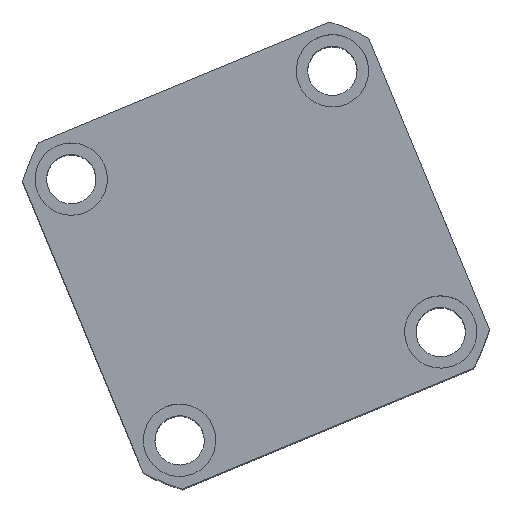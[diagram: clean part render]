
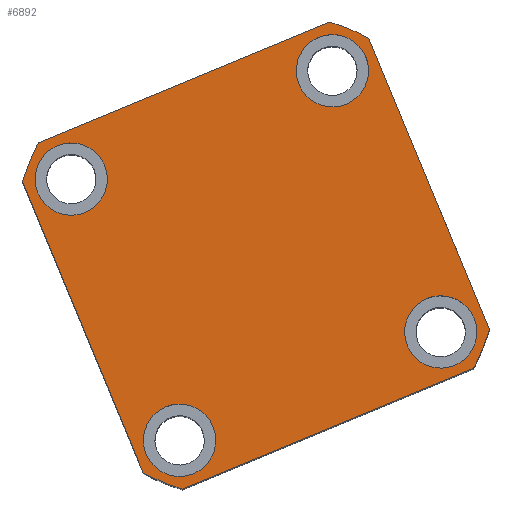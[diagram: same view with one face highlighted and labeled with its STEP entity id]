
A CAD part, top view. The second image highlights one B-rep face of the part: STEP entity #6892.
In plain terms, the highlighted planar face has unit normal (0, 0, 1) as drawn and (0, 0, -1) by its records, which use the part's own axes.
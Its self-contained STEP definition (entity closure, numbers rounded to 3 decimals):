
#1 = ORIENTED_EDGE ( 'NONE', *, *, #10779, .F. ) ;
#60 = ORIENTED_EDGE ( 'NONE', *, *, #4002, .F. ) ;
#192 = ORIENTED_EDGE ( 'NONE', *, *, #9710, .F. ) ;
#241 = CARTESIAN_POINT ( 'NONE',  ( -43., -43., 0. ) ) ;
#307 = VERTEX_POINT ( 'NONE', #5562 ) ;
#335 = CARTESIAN_POINT ( 'NONE',  ( -57., 47.971, 0. ) ) ;
#748 = EDGE_CURVE ( 'NONE', #11248, #307, #11732, .T. ) ;
#1095 = DIRECTION ( 'NONE',  ( -1., 0., 0. ) ) ;
#1100 = DIRECTION ( 'NONE',  ( 0., 0., -1. ) ) ;
#1112 = CARTESIAN_POINT ( 'NONE',  ( -43., -43., 0. ) ) ;
#1136 = VERTEX_POINT ( 'NONE', #9270 ) ;
#1197 = EDGE_LOOP ( 'NONE', ( #11075, #10175 ) ) ;
#1252 = ORIENTED_EDGE ( 'NONE', *, *, #4412, .F. ) ;
#1264 = VECTOR ( 'NONE', #13688, 1000. ) ;
#1322 = EDGE_CURVE ( 'NONE', #11102, #3143, #12621, .T. ) ;
#1398 = DIRECTION ( 'NONE',  ( -1., 0., 0. ) ) ;
#1419 = CIRCLE ( 'NONE', #11368, 74.5 ) ;
#1421 = VERTEX_POINT ( 'NONE', #3260 ) ;
#1447 = VERTEX_POINT ( 'NONE', #7877 ) ;
#1528 = AXIS2_PLACEMENT_3D ( 'NONE', #11701, #11688, #11673 ) ;
#1560 = EDGE_LOOP ( 'NONE', ( #2361, #1, #2220, #10692, #11855, #60, #192, #1252 ) ) ;
#1742 = CARTESIAN_POINT ( 'NONE',  ( 54., -43., 0. ) ) ;
#1961 = VERTEX_POINT ( 'NONE', #6095 ) ;
#2172 = EDGE_LOOP ( 'NONE', ( #8231, #2294 ) ) ;
#2209 = CARTESIAN_POINT ( 'NONE',  ( 0., 0., 0. ) ) ;
#2220 = ORIENTED_EDGE ( 'NONE', *, *, #748, .F. ) ;
#2294 = ORIENTED_EDGE ( 'NONE', *, *, #1322, .F. ) ;
#2340 = EDGE_CURVE ( 'NONE', #1421, #3898, #5241, .T. ) ;
#2361 = ORIENTED_EDGE ( 'NONE', *, *, #11663, .F. ) ;
#2493 = EDGE_CURVE ( 'NONE', #4646, #11248, #4868, .T. ) ;
#2644 = DIRECTION ( 'NONE',  ( 0., 0., -1. ) ) ;
#2738 = DIRECTION ( 'NONE',  ( 0., 1., 0. ) ) ;
#2910 = DIRECTION ( 'NONE',  ( 0., 0., -1. ) ) ;
#2997 = CARTESIAN_POINT ( 'NONE',  ( 54., 43., 0. ) ) ;
#3032 = FACE_BOUND ( 'NONE', #5176, .T. ) ;
#3143 = VERTEX_POINT ( 'NONE', #13301 ) ;
#3260 = CARTESIAN_POINT ( 'NONE',  ( -54., 43., 0. ) ) ;
#3312 = AXIS2_PLACEMENT_3D ( 'NONE', #241, #8602, #1398 ) ;
#3377 = LINE ( 'NONE', #14456, #12422 ) ;
#3405 = DIRECTION ( 'NONE',  ( 1., 0., 0. ) ) ;
#3487 = CIRCLE ( 'NONE', #13456, 74.5 ) ;
#3520 = DIRECTION ( 'NONE',  ( 0., 0., 1. ) ) ;
#3826 = CIRCLE ( 'NONE', #10488, 11. ) ;
#3898 = VERTEX_POINT ( 'NONE', #7177 ) ;
#4002 = EDGE_CURVE ( 'NONE', #12384, #5292, #4458, .T. ) ;
#4186 = CIRCLE ( 'NONE', #15150, 11. ) ;
#4244 = AXIS2_PLACEMENT_3D ( 'NONE', #9765, #2644, #10939 ) ;
#4249 = LINE ( 'NONE', #12890, #13582 ) ;
#4253 = AXIS2_PLACEMENT_3D ( 'NONE', #7968, #5896, #5847 ) ;
#4412 = EDGE_CURVE ( 'NONE', #1961, #1447, #4249, .T. ) ;
#4458 = LINE ( 'NONE', #14782, #10360 ) ;
#4474 = EDGE_CURVE ( 'NONE', #5292, #4646, #1419, .T. ) ;
#4475 = AXIS2_PLACEMENT_3D ( 'NONE', #5644, #5696, #6278 ) ;
#4646 = VERTEX_POINT ( 'NONE', #11792 ) ;
#4695 = VERTEX_POINT ( 'NONE', #11748 ) ;
#4699 = EDGE_CURVE ( 'NONE', #3898, #1421, #10154, .T. ) ;
#4868 = LINE ( 'NONE', #13345, #1264 ) ;
#5176 = EDGE_LOOP ( 'NONE', ( #7122, #13039 ) ) ;
#5241 = CIRCLE ( 'NONE', #4475, 11. ) ;
#5292 = VERTEX_POINT ( 'NONE', #9151 ) ;
#5391 = CIRCLE ( 'NONE', #4244, 11. ) ;
#5426 = CARTESIAN_POINT ( 'NONE',  ( -32., -43., 0. ) ) ;
#5562 = CARTESIAN_POINT ( 'NONE',  ( 57., -47.971, 0. ) ) ;
#5644 = CARTESIAN_POINT ( 'NONE',  ( -43., 43., 0. ) ) ;
#5696 = DIRECTION ( 'NONE',  ( 0., 0., -1. ) ) ;
#5801 = EDGE_LOOP ( 'NONE', ( #11053, #14128 ) ) ;
#5847 = DIRECTION ( 'NONE',  ( -1., 0., 0. ) ) ;
#5896 = DIRECTION ( 'NONE',  ( 0., 0., -1. ) ) ;
#5900 = CARTESIAN_POINT ( 'NONE',  ( 0., 0., 0. ) ) ;
#5938 = CARTESIAN_POINT ( 'NONE',  ( 0., 0., 0. ) ) ;
#6095 = CARTESIAN_POINT ( 'NONE',  ( 47.971, 57., 0. ) ) ;
#6210 = DIRECTION ( 'NONE',  ( 1., 0., 0. ) ) ;
#6245 = DIRECTION ( 'NONE',  ( 0., 0., 1. ) ) ;
#6256 = CARTESIAN_POINT ( 'NONE',  ( 0., 0., 0. ) ) ;
#6278 = DIRECTION ( 'NONE',  ( -1., 0., 0. ) ) ;
#6296 = FACE_BOUND ( 'NONE', #2172, .T. ) ;
#6584 = EDGE_CURVE ( 'NONE', #4695, #11032, #4186, .T. ) ;
#6744 = CARTESIAN_POINT ( 'NONE',  ( 47.971, -57., 0. ) ) ;
#6892 = ADVANCED_FACE ( 'NONE', ( #12465, #9397, #6296, #3032, #15172 ), #8313, .F. ) ;
#7013 = CARTESIAN_POINT ( 'NONE',  ( 43., -43., 0. ) ) ;
#7021 = AXIS2_PLACEMENT_3D ( 'NONE', #6256, #6245, #6210 ) ;
#7041 = CIRCLE ( 'NONE', #12308, 74.5 ) ;
#7122 = ORIENTED_EDGE ( 'NONE', *, *, #2340, .F. ) ;
#7125 = DIRECTION ( 'NONE',  ( 1., 0., 0. ) ) ;
#7177 = CARTESIAN_POINT ( 'NONE',  ( -32., 43., 0. ) ) ;
#7685 = AXIS2_PLACEMENT_3D ( 'NONE', #7013, #15069, #8177 ) ;
#7877 = CARTESIAN_POINT ( 'NONE',  ( -47.971, 57., 0. ) ) ;
#7968 = CARTESIAN_POINT ( 'NONE',  ( 43., 43., 0. ) ) ;
#8177 = DIRECTION ( 'NONE',  ( -1., 0., 0. ) ) ;
#8231 = ORIENTED_EDGE ( 'NONE', *, *, #13973, .F. ) ;
#8313 = PLANE ( 'NONE',  #9452 ) ;
#8602 = DIRECTION ( 'NONE',  ( 0., 0., -1. ) ) ;
#9151 = CARTESIAN_POINT ( 'NONE',  ( -57., -47.971, 0. ) ) ;
#9270 = CARTESIAN_POINT ( 'NONE',  ( 32., -43., 0. ) ) ;
#9397 = FACE_BOUND ( 'NONE', #1197, .T. ) ;
#9452 = AXIS2_PLACEMENT_3D ( 'NONE', #5938, #3520, #11784 ) ;
#9611 = EDGE_CURVE ( 'NONE', #1136, #13302, #13494, .T. ) ;
#9710 = EDGE_CURVE ( 'NONE', #1447, #12384, #7041, .T. ) ;
#9765 = CARTESIAN_POINT ( 'NONE',  ( 43., -43., 0. ) ) ;
#10026 = CARTESIAN_POINT ( 'NONE',  ( 43., 43., 0. ) ) ;
#10046 = EDGE_CURVE ( 'NONE', #11032, #4695, #11728, .T. ) ;
#10154 = CIRCLE ( 'NONE', #1528, 11. ) ;
#10175 = ORIENTED_EDGE ( 'NONE', *, *, #12311, .F. ) ;
#10360 = VECTOR ( 'NONE', #14764, 1000. ) ;
#10488 = AXIS2_PLACEMENT_3D ( 'NONE', #10026, #2910, #11189 ) ;
#10512 = DIRECTION ( 'NONE',  ( 0., 0., 1. ) ) ;
#10692 = ORIENTED_EDGE ( 'NONE', *, *, #2493, .F. ) ;
#10779 = EDGE_CURVE ( 'NONE', #307, #11608, #3377, .T. ) ;
#10939 = DIRECTION ( 'NONE',  ( -1., 0., 0. ) ) ;
#11032 = VERTEX_POINT ( 'NONE', #5426 ) ;
#11053 = ORIENTED_EDGE ( 'NONE', *, *, #6584, .F. ) ;
#11075 = ORIENTED_EDGE ( 'NONE', *, *, #9611, .F. ) ;
#11102 = VERTEX_POINT ( 'NONE', #2997 ) ;
#11189 = DIRECTION ( 'NONE',  ( -1., 0., 0. ) ) ;
#11248 = VERTEX_POINT ( 'NONE', #6744 ) ;
#11368 = AXIS2_PLACEMENT_3D ( 'NONE', #12458, #12448, #12445 ) ;
#11584 = CARTESIAN_POINT ( 'NONE',  ( 57., 47.971, 0. ) ) ;
#11608 = VERTEX_POINT ( 'NONE', #11584 ) ;
#11663 = EDGE_CURVE ( 'NONE', #11608, #1961, #3487, .T. ) ;
#11673 = DIRECTION ( 'NONE',  ( -1., 0., 0. ) ) ;
#11688 = DIRECTION ( 'NONE',  ( 0., 0., -1. ) ) ;
#11701 = CARTESIAN_POINT ( 'NONE',  ( -43., 43., 0. ) ) ;
#11728 = CIRCLE ( 'NONE', #3312, 11. ) ;
#11732 = CIRCLE ( 'NONE', #7021, 74.5 ) ;
#11748 = CARTESIAN_POINT ( 'NONE',  ( -54., -43., 0. ) ) ;
#11784 = DIRECTION ( 'NONE',  ( 1., 0., 0. ) ) ;
#11792 = CARTESIAN_POINT ( 'NONE',  ( -47.971, -57., 0. ) ) ;
#11855 = ORIENTED_EDGE ( 'NONE', *, *, #4474, .F. ) ;
#12308 = AXIS2_PLACEMENT_3D ( 'NONE', #5900, #14012, #7125 ) ;
#12311 = EDGE_CURVE ( 'NONE', #13302, #1136, #5391, .T. ) ;
#12384 = VERTEX_POINT ( 'NONE', #335 ) ;
#12422 = VECTOR ( 'NONE', #2738, 1000. ) ;
#12445 = DIRECTION ( 'NONE',  ( 1., 0., 0. ) ) ;
#12448 = DIRECTION ( 'NONE',  ( 0., 0., 1. ) ) ;
#12458 = CARTESIAN_POINT ( 'NONE',  ( 0., 0., 0. ) ) ;
#12465 = FACE_BOUND ( 'NONE', #5801, .T. ) ;
#12621 = CIRCLE ( 'NONE', #4253, 11. ) ;
#12890 = CARTESIAN_POINT ( 'NONE',  ( -57., 57., 0. ) ) ;
#12964 = DIRECTION ( 'NONE',  ( -1., 0., 0. ) ) ;
#13039 = ORIENTED_EDGE ( 'NONE', *, *, #4699, .F. ) ;
#13301 = CARTESIAN_POINT ( 'NONE',  ( 32., 43., 0. ) ) ;
#13302 = VERTEX_POINT ( 'NONE', #1742 ) ;
#13345 = CARTESIAN_POINT ( 'NONE',  ( -57., -57., 0. ) ) ;
#13456 = AXIS2_PLACEMENT_3D ( 'NONE', #2209, #10512, #3405 ) ;
#13494 = CIRCLE ( 'NONE', #7685, 11. ) ;
#13582 = VECTOR ( 'NONE', #12964, 1000. ) ;
#13688 = DIRECTION ( 'NONE',  ( 1., 0., 0. ) ) ;
#13973 = EDGE_CURVE ( 'NONE', #3143, #11102, #3826, .T. ) ;
#14012 = DIRECTION ( 'NONE',  ( 0., 0., 1. ) ) ;
#14128 = ORIENTED_EDGE ( 'NONE', *, *, #10046, .F. ) ;
#14456 = CARTESIAN_POINT ( 'NONE',  ( 57., 57., 0. ) ) ;
#14764 = DIRECTION ( 'NONE',  ( 0., -1., 0. ) ) ;
#14782 = CARTESIAN_POINT ( 'NONE',  ( -57., 57., 0. ) ) ;
#15069 = DIRECTION ( 'NONE',  ( 0., 0., -1. ) ) ;
#15150 = AXIS2_PLACEMENT_3D ( 'NONE', #1112, #1100, #1095 ) ;
#15172 = FACE_OUTER_BOUND ( 'NONE', #1560, .T. ) ;
